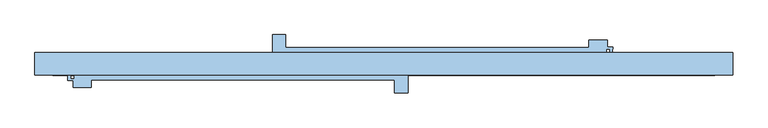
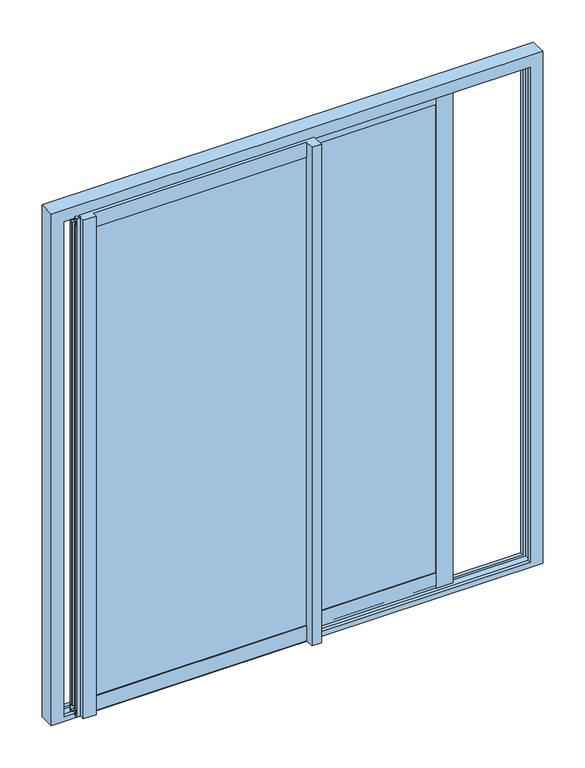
"""IFC4 building model written with IfcOpenShell, lengths in millimetres: window geometry, Domal_Slide TB65_Win_2 Vent_Balcony_Family : Domal_Slide TB65_Win_2 Vent_Balcony_Family."""

import ifcopenshell
import ifcopenshell.guid

model = None  # the IFC model being written
_history = None  # IfcOwnerHistory: only IFC2X3 demands one
_inside = {}  # id of a spatial element -> (the spatial element, [elements in it])
_under = {}  # id of a project, library or spatial element -> (it, [spatial elements below it])
_declared = {}  # id of a project -> (the project, [libraries it declares])
_typed = {}  # id of a type object -> (the type object, [elements of that type])
_made_of = {}  # id of a material, layer set ... -> (it, [elements and type objects made of it])


def new_model(schema):
    """Start an empty IFC model of exactly this schema.

    Asked for "IFC4X3", IfcOpenShell would pick the latest addendum, in which some entities
    have other attributes; the version numbers below select the first issue.
    IFC2X3 requires an IfcOwnerHistory on every rooted entity: one is made here for all.
    """
    global model, _history
    if schema == "IFC4X3":
        model = ifcopenshell.file(schema_version=(4, 3, 0, 0))
    else:
        model = ifcopenshell.file(schema=schema)
    _inside.clear()
    _under.clear()
    _declared.clear()
    _typed.clear()
    _made_of.clear()
    _history = None
    if model.schema == "IFC2X3":
        org = make("IfcOrganization", Name="unknown")
        user = make(
            "IfcPersonAndOrganization",
            ThePerson=make("IfcPerson", FamilyName="unknown"),
            TheOrganization=org,
        )
        app = make(
            "IfcApplication",
            ApplicationDeveloper=org,
            Version="unknown",
            ApplicationFullName="unknown",
            ApplicationIdentifier="unknown",
        )
        _history = make(
            "IfcOwnerHistory",
            OwningUser=user,
            OwningApplication=app,
            ChangeAction="ADDED",
            CreationDate=0,
        )
    return model


def make(cls, **values):
    """One entity of the class cls with the attributes given. An attribute that is None is left unset."""
    return model.create_entity(
        cls, **{name: value for name, value in values.items() if value is not None}
    )


def rooted(cls, **values):
    """An entity with a GlobalId (a new one), such as an element, a storey or a relation."""
    return make(cls, GlobalId=ifcopenshell.guid.new(), OwnerHistory=_history, **values)


def si_unit(unit_type, name, prefix=None):
    """IfcSIUnit, for example si_unit("LENGTHUNIT", "METRE", prefix="MILLI")."""
    return make("IfcSIUnit", UnitType=unit_type, Prefix=prefix, Name=name)


def assignment(units):
    """IfcUnitAssignment: the units of a project."""
    return None if units is None else make("IfcUnitAssignment", Units=units)


def point(xyz):
    """IfcCartesianPoint."""
    return None if xyz is None else make("IfcCartesianPoint", Coordinates=xyz)


def direction(xyz):
    """IfcDirection."""
    return None if xyz is None else make("IfcDirection", DirectionRatios=xyz)


def frame(location, z_axis=None, x_axis=None):
    """IfcAxis2Placement3D, a coordinate frame: its origin and axes. An axis left out is left unset."""
    return make(
        "IfcAxis2Placement3D",
        Location=point(location),
        Axis=direction(z_axis),
        RefDirection=direction(x_axis),
    )


def origin():
    """The frame at (0, 0, 0) with its axes left unset."""
    return frame((0.0, 0.0, 0.0))


def place(relative_to, where):
    """IfcLocalPlacement: puts the frame where relative to a parent placement (None: the world)."""
    return make(
        "IfcLocalPlacement", PlacementRelTo=relative_to, RelativePlacement=where
    )


def context(
    kind, dimensions, precision=None, world=None, true_north=None, identifier=None
):
    """IfcGeometricRepresentationContext, for example the 3D "Model" context."""
    return make(
        "IfcGeometricRepresentationContext",
        ContextIdentifier=identifier,
        ContextType=kind,
        CoordinateSpaceDimension=dimensions,
        Precision=precision,
        WorldCoordinateSystem=world,
        TrueNorth=true_north,
    )


def project(units=None, contexts=None):
    """IfcProject with its units and contexts."""
    return rooted(
        "IfcProject",
        Name="project",
        RepresentationContexts=contexts,
        UnitsInContext=assignment(units),
    )


def spatial(cls, under=None, at=None, **own):
    """A site, building, storey or space (cls), placed at a placement, below another one or the project."""
    s = rooted(cls, ObjectPlacement=at, **own)
    if under is not None:
        _under.setdefault(under.id(), (under, []))[1].append(s)
    return s


def polyline(points):
    """IfcPolyline through the points."""
    return make("IfcPolyline", Points=[point(p) for p in points])


def outline(outer, holes=None, kind="AREA"):
    """IfcArbitraryClosedProfileDef: a profile drawn as a closed curve; with holes, ...WithVoids."""
    if holes is None:
        return make("IfcArbitraryClosedProfileDef", ProfileType=kind, OuterCurve=outer)
    return make(
        "IfcArbitraryProfileDefWithVoids",
        ProfileType=kind,
        OuterCurve=outer,
        InnerCurves=holes,
    )


def extrude(swept, where, along, depth):
    """IfcExtrudedAreaSolid: the profile swept, set in the frame where, extruded along a direction by depth."""
    return make(
        "IfcExtrudedAreaSolid",
        SweptArea=swept,
        Position=where,
        ExtrudedDirection=direction(along),
        Depth=depth,
    )


def faces_of(points, faces, orient=None, outer=None):
    """IfcFace entities. A face is a list of loops; a loop is a list of indices into points, from 0.

    orient and outer hold one flag for each loop. By default every Orientation is true, the
    first loop of a face is its IfcFaceOuterBound and the others are IfcFaceBound.
    """
    made = []
    for i, loops in enumerate(faces):
        bounds = []
        for j, loop in enumerate(loops):
            is_outer = j == 0 if outer is None else outer[i][j]
            bounds.append(
                make(
                    "IfcFaceOuterBound" if is_outer else "IfcFaceBound",
                    Bound=make("IfcPolyLoop", Polygon=[points[k] for k in loop]),
                    Orientation=True if orient is None else orient[i][j],
                )
            )
        made.append(make("IfcFace", Bounds=bounds))
    return made


def faceted_brep(points, faces, orient=None, outer=None, voids=None):
    """IfcFacetedBrep: a solid bounded by flat faces; with voids (closed shells), ...WithVoids."""
    shared = [point(p) for p in points]
    hull = make("IfcClosedShell", CfsFaces=faces_of(shared, faces, orient, outer))
    if voids is None:
        return make("IfcFacetedBrep", Outer=hull)
    return make(
        "IfcFacetedBrepWithVoids",
        Outer=hull,
        Voids=[
            make(cls, CfsFaces=faces_of(shared, fs, o, b)) for cls, fs, o, b in voids
        ],
    )


def shape(context_of_items, identifier, shape_type, items):
    """IfcShapeRepresentation: the items that make up one representation, for example the "Body"."""
    return make(
        "IfcShapeRepresentation",
        ContextOfItems=context_of_items,
        RepresentationIdentifier=identifier,
        RepresentationType=shape_type,
        Items=items,
    )


def source(mapping_origin, context_of_items, identifier, shape_type, items):
    """IfcRepresentationMap: a shape defined once, which mapped items show again and again."""
    return make(
        "IfcRepresentationMap",
        MappingOrigin=mapping_origin,
        MappedRepresentation=shape(context_of_items, identifier, shape_type, items),
    )


def transform(
    local_origin,
    x_axis=None,
    y_axis=None,
    z_axis=None,
    scale=None,
    scale2=None,
    scale3=None,
    uniform=True,
):
    """IfcCartesianTransformationOperator3D, or its non-uniform kind. x_axis, y_axis, z_axis: its Axis1, 2, 3."""
    if uniform:
        return make(
            "IfcCartesianTransformationOperator3D",
            Axis1=direction(x_axis),
            Axis2=direction(y_axis),
            LocalOrigin=point(local_origin),
            Scale=scale,
            Axis3=direction(z_axis),
        )
    return make(
        "IfcCartesianTransformationOperator3DnonUniform",
        Axis1=direction(x_axis),
        Axis2=direction(y_axis),
        LocalOrigin=point(local_origin),
        Scale=scale,
        Axis3=direction(z_axis),
        Scale2=scale2,
        Scale3=scale3,
    )


def mapped(mapping_source, mapping_target):
    """IfcMappedItem: shows the shape of a source again, moved by a transform."""
    return make(
        "IfcMappedItem", MappingSource=mapping_source, MappingTarget=mapping_target
    )


def made_of(thing, what):
    """Note that an element or type object is made of a material, layer set ...; save() writes the relation."""
    if what is not None:
        _made_of.setdefault(what.id(), (what, []))[1].append(thing)
    return thing


def element(
    cls,
    number,
    at=None,
    inside=None,
    cuts=None,
    type_object=None,
    material=None,
    context=None,
    identifier="Body",
    shape_type=None,
    held_by="IfcProductDefinitionShape",
    body=None,
    shapes=None,
    **own,
):
    """One element of the class cls, such as IfcWall. Its Tag is "e" and its number.

    at: its placement. inside: the storey or other place that contains it. cuts: it is an
    opening in that element (IfcRelVoidsElement). A single representation is given by context,
    identifier, shape_type and body (its items); several are given by shapes. held_by: the class
    of the entity that holds the representations. save() writes the other relations.
    """
    e = rooted(cls, Tag="e%d" % number, ObjectPlacement=at, **own)
    if body is not None:
        shapes = [shape(context, identifier, shape_type, body)]
    if shapes is not None:
        e.Representation = make(held_by, Representations=shapes)
    if inside is not None:
        _inside.setdefault(inside.id(), (inside, []))[1].append(e)
    if cuts is not None:
        rooted(
            "IfcRelVoidsElement", RelatingBuildingElement=cuts, RelatedOpeningElement=e
        )
    if type_object is not None:
        _typed.setdefault(type_object.id(), (type_object, []))[1].append(e)
    return made_of(e, material)


def aggregate(whole, parts):
    """IfcRelAggregates: a whole, such as a stair, and the parts it consists of."""
    return rooted("IfcRelAggregates", RelatingObject=whole, RelatedObjects=parts)


def save(model, path):
    """Write the relations noted so far, then the file.

    IfcRelAggregates (storeys below a building ...), IfcRelContainedInSpatialStructure (elements
    in a storey), IfcRelDefinesByType, IfcRelAssociatesMaterial and IfcRelDeclares: one each for
    every whole, place, type object, material and project.
    """
    for whole, parts in _under.values():
        aggregate(whole, parts)
    for where, things in _inside.values():
        rooted(
            "IfcRelContainedInSpatialStructure",
            RelatedElements=things,
            RelatingStructure=where,
        )
    for kind, things in _typed.values():
        rooted("IfcRelDefinesByType", RelatedObjects=things, RelatingType=kind)
    for what, things in _made_of.values():
        rooted("IfcRelAssociatesMaterial", RelatedObjects=things, RelatingMaterial=what)
    for by, libraries in _declared.values():
        rooted("IfcRelDeclares", RelatingContext=by, RelatedDefinitions=libraries)
    model.write(path)


def window_c57f878f(model_context):
    return source(origin(), model_context, "Body", "SolidModel", [
        extrude(outline(polyline([(600.5, -0.0043941), (600.5, -32.0), (-293.0, -32.0), (-293.0, -0.0043941), (600.5, -0.0043941)])), frame((0.0, 0.0, 65.9991347), z_axis=(0.0, 0.0, 1.0), x_axis=(1.0, 0.0, 0.0)), (0.0, 0.0, 1.0), 2038.5017307),
        faceted_brep([(588.5, -36.1043941, 2092.5008653), (588.5, -36.1043941, 2156.5), (-281.0, -36.1043941, 2156.5), (-281.0, -36.1043941, 2092.5008653), (656.5, -37.9956605, 2156.5), (656.5, -32.5956605, 2156.5), (655.2999999, -32.5956605, 2156.5), (655.2999999, -21.9956599, 2156.5), (647.8000001, -21.9956599, 2156.5), (647.8000001, -32.5956605, 2156.5), (637.6402049, -32.5956605, 2156.5), (637.6402049, -22.0043978, 2156.5), (-319.0, -22.0043978, 2156.5), (-319.0, -45.9043008, 2156.5), (-309.3539327, -45.9043008, 2156.5), (-309.3539327, -44.5054114, 2156.5), (-295.5952172, -44.5054114, 2156.5), (-295.5952172, -42.7001976, 2156.5), (-301.6595506, -42.7001976, 2156.5), (-301.6595506, -38.6043008, 2156.5), (-281.0, -38.6043008, 2156.5), (588.5, -37.9956605, 2156.5), (637.6402049, 0.6043395, 2156.5), (647.8000001, 0.6043395, 2156.5), (647.8000001, -9.9956691, 2156.5), (655.2999999, -9.9956691, 2156.5), (655.2999999, 0.6043395, 2156.5), (656.5, 0.6043395, 2156.5), (656.5, 6.0043395, 2156.5), (640.5, 6.0043395, 2156.5), (640.5, 25.9956605, 2156.5), (588.5, 25.9956605, 2156.5), (588.5, 4.0945955, 2156.5), (-281.0, 4.0945955, 2156.5), (-281.0, 40.9956605, 2156.5), (-319.0, 40.9956605, 2156.5), (-319.0, -10.0044069, 2156.5), (637.6402049, -10.0044069, 2156.5), (637.6402049, -22.0043978, 2146.0001881), (-319.0, -22.0043978, 2146.0001881), (637.6402049, -32.5956605, 2146.0001881), (647.8000001, -32.5956605, 2146.0001881), (647.8000001, -21.9956599, 2146.0001881), (655.2999999, -21.9956599, 2146.0001881), (655.2999999, -32.5956605, 2146.0001881), (656.5, -32.5956605, 2146.0001881), (656.5, -34.5043941, 2146.0001881), (-319.0, -34.5043941, 2146.0001881), (656.5, -34.5043941, 2125.3222448), (-319.0, -34.5043941, 2125.3222448), (656.5, 0.6043395, 2125.3222448), (656.5, 2.4974708, 2125.3222448), (-319.0, 2.4974708, 2125.3222448), (656.5, -32.5956605, 2125.3222448), (655.2999999, -32.5956605, 2125.3222448), (655.2999999, -21.9956599, 2125.3222448), (647.8000001, -21.9956599, 2125.3222448), (647.8000001, -32.5956605, 2125.3222448), (637.6402049, -32.5956605, 2125.3222448), (637.6402049, 0.6043395, 2125.3222448), (647.8000001, 0.6043395, 2125.3222448), (647.8000001, -9.9956691, 2125.3222448), (655.2999999, -9.9956691, 2125.3222448), (655.2999999, 0.6043395, 2125.3222448), (656.5, 2.4974708, 2146.0001881), (-319.0, 2.4974708, 2146.0001881), (656.5, 0.6043395, 2146.0001881), (655.2999999, 0.6043395, 2146.0001881), (655.2999999, -9.9956691, 2146.0001881), (647.8000001, -9.9956691, 2146.0001881), (647.8000001, 0.6043395, 2146.0001881), (637.6402049, 0.6043395, 2146.0001881), (637.6402049, -10.0044069, 2146.0001881), (-319.0, -10.0044069, 2146.0001881), (588.5, 4.0945955, 2092.5000861), (-281.0, 4.0945955, 2092.5000861), (588.5, -0.0043941, 2092.5000861), (-281.0, -0.0043941, 2092.5000861), (600.5, -0.0043941, 65.9991347), (600.5, -0.0043941, 2104.5008653), (-293.0, -0.0043941, 2104.5008653), (-293.0, -0.0043941, 65.9991347), (588.5, -0.0043941, 77.9991347), (-281.0, -0.0043941, 77.9991347), (600.5, -32.0, 2104.5008653), (-293.0, -32.0, 2104.5008653), (600.5, -32.0, 65.9991347), (-293.0, -32.0, 65.9991347), (588.5, -32.0, 77.9999139), (588.5, -32.0, 2092.5008653), (-281.0, -32.0, 2092.5008653), (-281.0, -32.0, 77.9999139), (588.5, 4.1043941, 77.9991347), (588.5, 4.1043941, 14.0), (-281.0, 4.1043941, 14.0), (-281.0, 4.1043941, 77.9991347), (637.6402049, -9.9956022, 14.0), (-319.0, -9.9956022, 14.0), (-319.0, 40.9956605, 14.0), (-281.0, 40.9956605, 14.0), (588.5, 25.9956605, 14.0), (640.5, 25.9956605, 14.0), (640.5, 6.0043395, 14.0), (656.5, 6.0043395, 14.0), (656.5, 0.6043395, 14.0), (655.2999999, 0.6043395, 14.0), (655.2999999, -9.9956691, 14.0), (647.8000001, -9.9956691, 14.0), (647.8000001, 0.6043395, 14.0), (637.6402049, 0.6043395, 14.0), (-319.0, -21.9955931, 14.0), (637.6402049, -21.9955931, 14.0), (637.6402049, -32.5956605, 14.0), (647.8000001, -32.5956605, 14.0), (647.8000001, -21.9956599, 14.0), (655.2999999, -21.9956599, 14.0), (655.2999999, -32.5956605, 14.0), (656.5, -32.5956605, 14.0), (656.5, -37.9956605, 14.0), (588.5, -37.9956605, 14.0), (588.5, -36.0945955, 14.0), (-281.0, -36.0945955, 14.0), (-281.0, -38.6043008, 14.0), (-301.6595506, -38.6043008, 14.0), (-301.6595506, -42.7001976, 14.0), (-295.5952172, -42.7001976, 14.0), (-295.5952172, -44.5054114, 14.0), (-309.3539327, -44.5054114, 14.0), (-309.3539327, -45.9043008, 14.0), (-319.0, -45.9043008, 14.0), (637.6402049, -9.9956022, 24.4998119), (-319.0, -9.9956022, 24.4998119), (637.6402049, 0.6043395, 24.4998119), (647.8000001, 0.6043395, 24.4998119), (647.8000001, -9.9956691, 24.4998119), (655.2999999, -9.9956691, 24.4998119), (655.2999999, 0.6043395, 24.4998119), (656.5, 0.6043395, 24.4998119), (656.5, 2.5043941, 24.4998119), (-319.0, 2.5043941, 24.4998119), (656.5, 2.5043941, 45.1777552), (-319.0, 2.5043941, 45.1777552), (656.5, 0.6043395, 45.1777552), (655.2999999, 0.6043395, 45.1777552), (655.2999999, -9.9956691, 45.1777552), (647.8000001, -9.9956691, 45.1777552), (647.8000001, 0.6043395, 45.1777552), (637.6402049, 0.6043395, 45.1777552), (637.6402049, -32.5956605, 45.1777552), (647.8000001, -32.5956605, 45.1777552), (647.8000001, -21.9956599, 45.1777552), (655.2999999, -21.9956599, 45.1777552), (655.2999999, -32.5956605, 45.1777552), (656.5, -32.5956605, 45.1777552), (656.5, -34.4974708, 45.1777552), (-319.0, -34.4974708, 45.1777552), (656.5, -34.4974708, 24.4998119), (-319.0, -34.4974708, 24.4998119), (-319.0, -21.9955931, 24.4998119), (656.5, -32.5956605, 24.4998119), (655.2999999, -32.5956605, 24.4998119), (655.2999999, -21.9956599, 24.4998119), (647.8000001, -21.9956599, 24.4998119), (647.8000001, -32.5956605, 24.4998119), (637.6402049, -32.5956605, 24.4998119), (637.6402049, -21.9955931, 24.4998119), (588.5, -36.0945955, 77.9999139), (-281.0, -36.0945955, 77.9999139)], [[[0, 1, 2, 3]], [[4, 5, 6, 7, 8, 9, 10, 11, 12, 13, 14, 15, 16, 17, 18, 19, 20, 2, 1, 21]], [[22, 23, 24, 25, 26, 27, 28, 29, 30, 31, 32, 33, 34, 35, 36, 37]], [[11, 38, 39, 12]], [[38, 40, 41, 42, 43, 44, 45, 46, 47, 39]], [[46, 48, 49, 47]], [[50, 51, 52, 49, 48, 53, 54, 55, 56, 57, 58, 59, 60, 61, 62, 63]], [[51, 64, 65, 52]], [[64, 66, 67, 68, 69, 70, 71, 72, 73, 65]], [[72, 37, 36, 73]], [[32, 74, 75, 33]], [[74, 76, 77, 75]], [[78, 79, 80, 81], [76, 82, 83, 77]], [[79, 84, 85, 80]], [[84, 86, 87, 85], [88, 89, 90, 91]], [[89, 0, 3, 90]], [[92, 93, 94, 95]], [[96, 97, 98, 99, 94, 93, 100, 101, 102, 103, 104, 105, 106, 107, 108, 109]], [[110, 111, 112, 113, 114, 115, 116, 117, 118, 119, 120, 121, 122, 123, 124, 125, 126, 127, 128, 129]], [[96, 130, 131, 97]], [[131, 130, 132, 133, 134, 135, 136, 137, 138, 139]], [[139, 138, 140, 141]], [[141, 140, 142, 143, 144, 145, 146, 147, 148, 149, 150, 151, 152, 153, 154, 155]], [[155, 154, 156, 157]], [[158, 157, 156, 159, 160, 161, 162, 163, 164, 165]], [[158, 165, 111, 110]], [[120, 166, 167, 121]], [[166, 88, 91, 167]], [[86, 78, 81, 87]], [[82, 92, 95, 83]], [[119, 118, 4, 21]], [[119, 21, 1, 0, 89, 88, 166, 120]], [[84, 79, 78, 86]], [[31, 100, 93, 92, 82, 76, 74, 32]], [[101, 100, 31, 30]], [[102, 101, 30, 29]], [[103, 102, 29, 28]], [[104, 103, 28, 27, 66, 64, 51, 50, 142, 140, 138, 137]], [[27, 26, 67, 66]], [[105, 104, 137, 136]], [[50, 63, 143, 142]], [[26, 25, 68, 67]], [[106, 105, 136, 135]], [[63, 62, 144, 143]], [[25, 24, 69, 68]], [[107, 106, 135, 134]], [[62, 61, 145, 144]], [[24, 23, 70, 69]], [[108, 107, 134, 133]], [[61, 60, 146, 145]], [[23, 22, 71, 70]], [[109, 108, 133, 132]], [[60, 59, 147, 146]], [[11, 10, 40, 38]], [[22, 37, 72, 71]], [[96, 109, 132, 130]], [[112, 111, 165, 164]], [[59, 58, 148, 147]], [[10, 9, 41, 40]], [[113, 112, 164, 163]], [[58, 57, 149, 148]], [[9, 8, 42, 41]], [[114, 113, 163, 162]], [[57, 56, 150, 149]], [[8, 7, 43, 42]], [[115, 114, 162, 161]], [[56, 55, 151, 150]], [[7, 6, 44, 43]], [[116, 115, 161, 160]], [[55, 54, 152, 151]], [[6, 5, 45, 44]], [[117, 116, 160, 159]], [[54, 53, 153, 152]], [[118, 117, 159, 156, 154, 153, 53, 48, 46, 45, 5, 4]], [[99, 98, 35, 34]], [[99, 34, 33, 75, 77, 83, 95, 94]], [[80, 85, 87, 81]], [[20, 122, 121, 167, 91, 90, 3, 2]], [[123, 122, 20, 19]], [[124, 123, 19, 18]], [[125, 124, 18, 17]], [[126, 125, 17, 16]], [[127, 126, 16, 15]], [[128, 127, 15, 14]], [[129, 128, 14, 13]], [[35, 98, 97, 131, 139, 141, 155, 157, 158, 110, 129, 13, 12, 39, 47, 49, 52, 65, 73, 36]]]),
        extrude(outline(polyline([(43.0000004, -53.0043941), (43.0000004, -85.0), (-850.4999996, -85.0), (-850.4999996, -53.0043941), (43.0000004, -53.0043941)])), frame((0.0, 0.0, 65.9991347), z_axis=(0.0, 0.0, 1.0), x_axis=(1.0, 0.0, 0.0)), (0.0, 0.0, 1.0), 2038.5017307),
        faceted_brep([(-838.4999996, -89.1043941, 2156.5), (-838.4999996, -89.1043941, 2092.5008653), (31.0000004, -89.1043941, 2092.5008653), (31.0000004, -89.1043941, 2156.5), (-906.4999996, -90.9956605, 2156.5), (-890.4999996, -90.9956605, 2156.5), (-890.4999996, -110.9956605, 2156.5), (-838.4999996, -110.9956605, 2156.5), (31.0000004, -125.9956605, 2156.5), (69.0000004, -125.9956605, 2156.5), (69.0000004, -75.0043978, 2156.5), (-887.6402045, -75.0043978, 2156.5), (-887.6402045, -85.5956605, 2156.5), (-897.7999997, -85.5956605, 2156.5), (-897.7999997, -74.9956599, 2156.5), (-905.2999995, -74.9956599, 2156.5), (-905.2999995, -85.5956605, 2156.5), (-906.4999996, -85.5956605, 2156.5), (-838.4999996, -46.9956605, 2156.5), (-906.4999996, -46.9956605, 2156.5), (-906.4999996, -52.3956605, 2156.5), (-905.2999995, -52.3956605, 2156.5), (-905.2999995, -62.9956691, 2156.5), (-897.7999997, -62.9956691, 2156.5), (-897.7999997, -52.3956605, 2156.5), (-887.6402045, -52.3956605, 2156.5), (-887.6402045, -63.0044069, 2156.5), (69.0000004, -63.0044069, 2156.5), (69.0000004, -39.0956605, 2156.5), (59.3539331, -39.0956605, 2156.5), (59.3539331, -40.4945499, 2156.5), (45.5952177, -40.4945499, 2156.5), (45.5952177, -42.2997638, 2156.5), (51.659551, -42.2997638, 2156.5), (51.659551, -46.3956605, 2156.5), (31.0000004, -46.3956605, 2156.5), (31.0000004, -48.9054045, 2156.5), (-838.4999996, -48.9054045, 2156.5), (-887.6402045, -75.0043978, 2146.0001881), (69.0000004, -75.0043978, 2146.0001881), (-906.4999996, -87.5043941, 2146.0001881), (-906.4999996, -85.5956605, 2146.0001881), (-905.2999995, -85.5956605, 2146.0001881), (-905.2999995, -74.9956599, 2146.0001881), (-897.7999997, -74.9956599, 2146.0001881), (-897.7999997, -85.5956605, 2146.0001881), (-887.6402045, -85.5956605, 2146.0001881), (69.0000004, -87.5043941, 2146.0001881), (-906.4999996, -87.5043941, 2125.3222448), (69.0000004, -87.5043941, 2125.3222448), (-906.4999996, -85.5956605, 2125.3222448), (69.0000004, -50.5025292, 2125.3222448), (-906.4999996, -50.5025292, 2125.3222448), (-906.4999996, -52.3956605, 2125.3222448), (-905.2999995, -52.3956605, 2125.3222448), (-905.2999995, -62.9956691, 2125.3222448), (-897.7999997, -62.9956691, 2125.3222448), (-897.7999997, -52.3956605, 2125.3222448), (-887.6402045, -52.3956605, 2125.3222448), (-887.6402045, -85.5956605, 2125.3222448), (-897.7999997, -85.5956605, 2125.3222448), (-897.7999997, -74.9956599, 2125.3222448), (-905.2999995, -74.9956599, 2125.3222448), (-905.2999995, -85.5956605, 2125.3222448), (-906.4999996, -50.5025292, 2146.0001881), (69.0000004, -50.5025292, 2146.0001881), (-887.6402045, -63.0044069, 2146.0001881), (-887.6402045, -52.3956605, 2146.0001881), (-897.7999997, -52.3956605, 2146.0001881), (-897.7999997, -62.9956691, 2146.0001881), (-905.2999995, -62.9956691, 2146.0001881), (-905.2999995, -52.3956605, 2146.0001881), (-906.4999996, -52.3956605, 2146.0001881), (69.0000004, -63.0044069, 2146.0001881), (-838.4999996, -48.9054045, 2092.5000861), (31.0000004, -48.9054045, 2092.5000861), (-838.4999996, -53.0043941, 2092.5000861), (31.0000004, -53.0043941, 2092.5000861), (-850.4999996, -53.0043941, 2104.5008653), (-850.4999996, -53.0043941, 65.9991347), (43.0000004, -53.0043941, 65.9991347), (43.0000004, -53.0043941, 2104.5008653), (-838.4999996, -53.0043941, 77.9991347), (31.0000004, -53.0043941, 77.9991347), (-850.4999996, -85.0, 2104.5008653), (43.0000004, -85.0, 2104.5008653), (-850.4999996, -85.0, 65.9991347), (43.0000004, -85.0, 65.9991347), (-838.4999996, -85.0, 2092.5008653), (-838.4999996, -85.0, 77.9999139), (31.0000004, -85.0, 77.9999139), (31.0000004, -85.0, 2092.5008653), (-838.4999996, -48.8956059, 14.0), (-838.4999996, -48.8956059, 77.9991347), (31.0000004, -48.8956059, 77.9991347), (31.0000004, -48.8956059, 14.0), (69.0000004, -62.9956022, 14.0), (-887.6402045, -62.9956022, 14.0), (-887.6402045, -52.3956605, 14.0), (-897.7999997, -52.3956605, 14.0), (-897.7999997, -62.9956691, 14.0), (-905.2999995, -62.9956691, 14.0), (-905.2999995, -52.3956605, 14.0), (-906.4999996, -52.3956605, 14.0), (-906.4999996, -46.9956605, 14.0), (-838.4999996, -46.9956605, 14.0), (31.0000004, -46.3956605, 14.0), (51.659551, -46.3956605, 14.0), (51.659551, -42.2997638, 14.0), (45.5952177, -42.2997638, 14.0), (45.5952177, -40.4945499, 14.0), (59.3539331, -40.4945499, 14.0), (59.3539331, -39.0956605, 14.0), (69.0000004, -39.0956605, 14.0), (-887.6402045, -74.9955931, 14.0), (69.0000004, -74.9955931, 14.0), (69.0000004, -125.9956605, 14.0), (31.0000004, -125.9956605, 14.0), (31.0000004, -89.0945955, 14.0), (-838.4999996, -89.0945955, 14.0), (-838.4999996, -110.9956605, 14.0), (-890.4999996, -110.9956605, 14.0), (-890.4999996, -90.9956605, 14.0), (-906.4999996, -90.9956605, 14.0), (-906.4999996, -85.5956605, 14.0), (-905.2999995, -85.5956605, 14.0), (-905.2999995, -74.9956599, 14.0), (-897.7999997, -74.9956599, 14.0), (-897.7999997, -85.5956605, 14.0), (-887.6402045, -85.5956605, 14.0), (69.0000004, -62.9956022, 24.4998119), (-887.6402045, -62.9956022, 24.4998119), (69.0000004, -50.4956059, 24.4998119), (-906.4999996, -50.4956059, 24.4998119), (-906.4999996, -52.3956605, 24.4998119), (-905.2999995, -52.3956605, 24.4998119), (-905.2999995, -62.9956691, 24.4998119), (-897.7999997, -62.9956691, 24.4998119), (-897.7999997, -52.3956605, 24.4998119), (-887.6402045, -52.3956605, 24.4998119), (69.0000004, -50.4956059, 45.1777552), (-906.4999996, -50.4956059, 45.1777552), (69.0000004, -87.4974708, 45.1777552), (-906.4999996, -87.4974708, 45.1777552), (-906.4999996, -85.5956605, 45.1777552), (-905.2999995, -85.5956605, 45.1777552), (-905.2999995, -74.9956599, 45.1777552), (-897.7999997, -74.9956599, 45.1777552), (-897.7999997, -85.5956605, 45.1777552), (-887.6402045, -85.5956605, 45.1777552), (-887.6402045, -52.3956605, 45.1777552), (-897.7999997, -52.3956605, 45.1777552), (-897.7999997, -62.9956691, 45.1777552), (-905.2999995, -62.9956691, 45.1777552), (-905.2999995, -52.3956605, 45.1777552), (-906.4999996, -52.3956605, 45.1777552), (69.0000004, -87.4974708, 24.4998119), (-906.4999996, -87.4974708, 24.4998119), (-887.6402045, -74.9955931, 24.4998119), (-887.6402045, -85.5956605, 24.4998119), (-897.7999997, -85.5956605, 24.4998119), (-897.7999997, -74.9956599, 24.4998119), (-905.2999995, -74.9956599, 24.4998119), (-905.2999995, -85.5956605, 24.4998119), (-906.4999996, -85.5956605, 24.4998119), (69.0000004, -74.9955931, 24.4998119), (-838.4999996, -89.0945955, 77.9999139), (31.0000004, -89.0945955, 77.9999139)], [[[0, 1, 2, 3]], [[4, 5, 6, 7, 0, 3, 8, 9, 10, 11, 12, 13, 14, 15, 16, 17]], [[18, 19, 20, 21, 22, 23, 24, 25, 26, 27, 28, 29, 30, 31, 32, 33, 34, 35, 36, 37]], [[38, 11, 10, 39]], [[40, 41, 42, 43, 44, 45, 46, 38, 39, 47]], [[48, 40, 47, 49]], [[50, 48, 49, 51, 52, 53, 54, 55, 56, 57, 58, 59, 60, 61, 62, 63]], [[64, 52, 51, 65]], [[66, 67, 68, 69, 70, 71, 72, 64, 65, 73]], [[26, 66, 73, 27]], [[74, 37, 36, 75]], [[76, 74, 75, 77]], [[78, 79, 80, 81], [82, 76, 77, 83]], [[84, 78, 81, 85]], [[86, 84, 85, 87], [88, 89, 90, 91]], [[1, 88, 91, 2]], [[92, 93, 94, 95]], [[96, 97, 98, 99, 100, 101, 102, 103, 104, 105, 92, 95, 106, 107, 108, 109, 110, 111, 112, 113]], [[114, 115, 116, 117, 118, 119, 120, 121, 122, 123, 124, 125, 126, 127, 128, 129]], [[96, 130, 131, 97]], [[131, 130, 132, 133, 134, 135, 136, 137, 138, 139]], [[133, 132, 140, 141]], [[141, 140, 142, 143, 144, 145, 146, 147, 148, 149, 150, 151, 152, 153, 154, 155]], [[143, 142, 156, 157]], [[158, 159, 160, 161, 162, 163, 164, 157, 156, 165]], [[158, 165, 115, 114]], [[166, 119, 118, 167]], [[89, 166, 167, 90]], [[79, 86, 87, 80]], [[93, 82, 83, 94]], [[124, 123, 4, 17, 41, 40, 48, 50, 144, 143, 157, 164]], [[17, 16, 42, 41]], [[125, 124, 164, 163]], [[50, 63, 145, 144]], [[16, 15, 43, 42]], [[126, 125, 163, 162]], [[63, 62, 146, 145]], [[15, 14, 44, 43]], [[127, 126, 162, 161]], [[62, 61, 147, 146]], [[14, 13, 45, 44]], [[128, 127, 161, 160]], [[61, 60, 148, 147]], [[13, 12, 46, 45]], [[129, 128, 160, 159]], [[60, 59, 149, 148]], [[12, 11, 38, 46]], [[26, 25, 67, 66]], [[98, 97, 131, 139]], [[114, 129, 159, 158]], [[59, 58, 150, 149]], [[25, 24, 68, 67]], [[99, 98, 139, 138]], [[58, 57, 151, 150]], [[24, 23, 69, 68]], [[100, 99, 138, 137]], [[57, 56, 152, 151]], [[23, 22, 70, 69]], [[101, 100, 137, 136]], [[56, 55, 153, 152]], [[22, 21, 71, 70]], [[102, 101, 136, 135]], [[55, 54, 154, 153]], [[21, 20, 72, 71]], [[103, 102, 135, 134]], [[54, 53, 155, 154]], [[104, 103, 134, 133, 141, 155, 53, 52, 64, 72, 20, 19]], [[105, 104, 19, 18]], [[105, 18, 37, 74, 76, 82, 93, 92]], [[78, 84, 86, 79]], [[7, 120, 119, 166, 89, 88, 1, 0]], [[121, 120, 7, 6]], [[122, 121, 6, 5]], [[123, 122, 5, 4]], [[117, 116, 9, 8]], [[117, 8, 3, 2, 91, 90, 167, 118]], [[85, 81, 80, 87]], [[35, 106, 95, 94, 83, 77, 75, 36]], [[107, 106, 35, 34]], [[108, 107, 34, 33]], [[109, 108, 33, 32]], [[110, 109, 32, 31]], [[111, 110, 31, 30]], [[112, 111, 30, 29]], [[113, 112, 29, 28]], [[9, 116, 115, 165, 156, 142, 140, 132, 130, 96, 113, 28, 27, 73, 65, 51, 49, 47, 39, 10]]]),
        faceted_brep([(-1000.0, -74.9999601, 0.0), (-1000.0, -10.0, 0.0), (1000.0, -10.0, 0.0), (1000.0, -74.9999601, 0.0), (1000.0, -10.0, 2200.0), (1000.0, -74.9999601, 2200.0), (948.5, -21.9999908, 2148.5), (948.5, -10.0, 2148.5), (948.5, -10.0, 22.0), (948.5, -21.9999908, 22.0), (960.5921341, -62.9999693, 12.5999997), (960.5921341, -62.9999693, 2160.5921341), (960.5921341, -21.9999908, 2160.5921341), (960.5921341, -21.9999908, 12.5999997), (948.5, -74.9999601, 2148.5), (948.5, -62.9999693, 2148.5), (948.5, -62.9999693, 21.9999997), (948.5, -74.9999601, 21.9999997), (-1000.0, -10.0, 2200.0), (-1000.0, -74.9999601, 2200.0), (-948.5, -10.0, 2148.5), (-948.5, -10.0, 22.0), (-948.5, -21.9999908, 2148.5), (-948.5, -21.9999908, 22.0), (-960.5921341, -21.9999908, 2160.5921341), (-960.5921341, -21.9999908, 12.5999997), (-960.5921341, -62.9999693, 2160.5921341), (-960.5921341, -62.9999693, 12.5999997), (-948.5, -62.9999693, 2148.5), (-948.5, -62.9999693, 21.9999997), (-948.5, -74.9999601, 2148.5), (-948.5, -74.9999601, 21.9999997)], [[[0, 1, 2, 3]], [[2, 4, 5, 3]], [[6, 7, 8, 9]], [[10, 11, 12, 13]], [[14, 15, 16, 17]], [[18, 1, 0, 19]], [[2, 1, 18, 4], [20, 21, 8, 7]], [[20, 22, 23, 21]], [[12, 24, 25, 13], [22, 6, 9, 23]], [[25, 24, 26, 27]], [[26, 11, 10, 27], [28, 29, 16, 15]], [[28, 30, 31, 29]], [[0, 3, 5, 19], [14, 17, 31, 30]], [[5, 4, 18, 19]], [[7, 6, 22, 20]], [[12, 11, 26, 24]], [[15, 14, 30, 28]], [[16, 29, 31, 17]], [[13, 25, 27, 10]], [[8, 21, 23, 9]]]),
    ])


if __name__ == "__main__":
    model = new_model("IFC4")
    model_context = context("Model", 3, world=origin())
    ifc_project = project(units=[si_unit("LENGTHUNIT", "METRE", prefix="MILLI")], contexts=[model_context])
    site = spatial("IfcSite", under=ifc_project)
    building = spatial("IfcBuilding", under=site)
    placement = place(None, origin())
    window_shape = window_c57f878f(model_context)
    element("IfcWindow", 1, ObjectType="Domal_Slide TB65_Win_2 Vent_Balcony_Family : Domal_Slide TB65_Win_2 Vent_Balcony_Family", at=placement, inside=building, context=model_context, shape_type="MappedRepresentation", body=[
        mapped(window_shape, transform((0.0, 0.0, 0.0), x_axis=(1.0, 0.0, 0.0), y_axis=(0.0, 1.0, 0.0), z_axis=(0.0, 0.0, 1.0))),
    ])
    save(model, "model.ifc")
